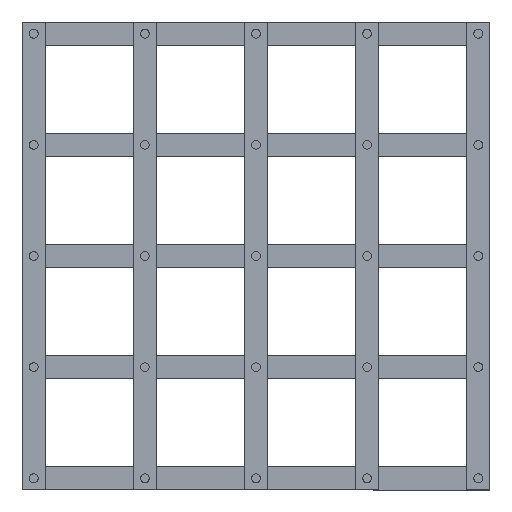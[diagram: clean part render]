
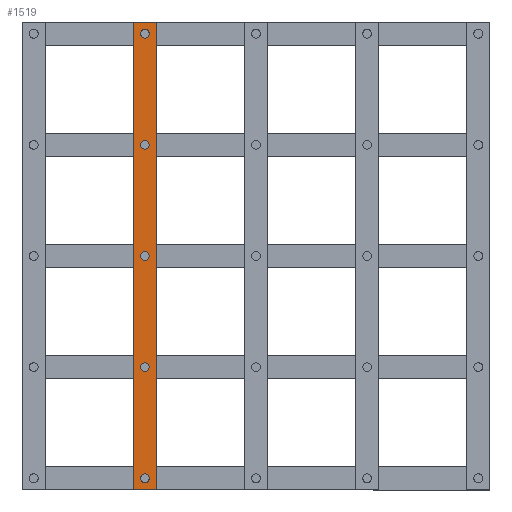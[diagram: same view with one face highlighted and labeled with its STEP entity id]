
A CAD part, front view. The second image highlights one B-rep face of the part: STEP entity #1519.
In plain terms, the highlighted planar face has unit normal (0, -1, 0).
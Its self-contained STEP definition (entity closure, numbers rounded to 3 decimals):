
#84=PLANE('',#1682);
#184=FACE_OUTER_BOUND('',#309,.T.);
#309=EDGE_LOOP('',(#1157,#1158,#1159,#1160));
#435=LINE('',#2373,#580);
#439=LINE('',#2381,#584);
#442=LINE('',#2387,#587);
#445=LINE('',#2392,#590);
#580=VECTOR('',#1894,10.);
#584=VECTOR('',#1900,10.);
#587=VECTOR('',#1905,10.);
#590=VECTOR('',#1910,10.);
#776=VERTEX_POINT('',#2371);
#777=VERTEX_POINT('',#2372);
#780=VERTEX_POINT('',#2380);
#782=VERTEX_POINT('',#2386);
#915=EDGE_CURVE('',#776,#777,#435,.T.);
#919=EDGE_CURVE('',#777,#780,#439,.T.);
#922=EDGE_CURVE('',#780,#782,#442,.T.);
#925=EDGE_CURVE('',#776,#782,#445,.T.);
#1157=ORIENTED_EDGE('',*,*,#925,.F.);
#1158=ORIENTED_EDGE('',*,*,#915,.T.);
#1159=ORIENTED_EDGE('',*,*,#919,.T.);
#1160=ORIENTED_EDGE('',*,*,#922,.T.);
#1519=ADVANCED_FACE('',(#184),#84,.F.);
#1682=AXIS2_PLACEMENT_3D('',#2395,#1914,#1915);
#1894=DIRECTION('',(-1.,0.,0.));
#1900=DIRECTION('',(0.,0.,-1.));
#1905=DIRECTION('',(1.,0.,0.));
#1910=DIRECTION('',(0.,0.,-1.));
#1914=DIRECTION('center_axis',(0.,1.,0.));
#1915=DIRECTION('ref_axis',(1.,0.,0.));
#2371=CARTESIAN_POINT('',(46.,0.,160.));
#2372=CARTESIAN_POINT('',(38.,0.,160.));
#2373=CARTESIAN_POINT('',(46.,0.,160.));
#2380=CARTESIAN_POINT('',(38.,0.,0.));
#2381=CARTESIAN_POINT('',(38.,0.,160.));
#2386=CARTESIAN_POINT('',(46.,0.,0.));
#2387=CARTESIAN_POINT('',(38.,0.,0.));
#2392=CARTESIAN_POINT('',(46.,0.,160.));
#2395=CARTESIAN_POINT('Origin',(42.,0.,80.));
